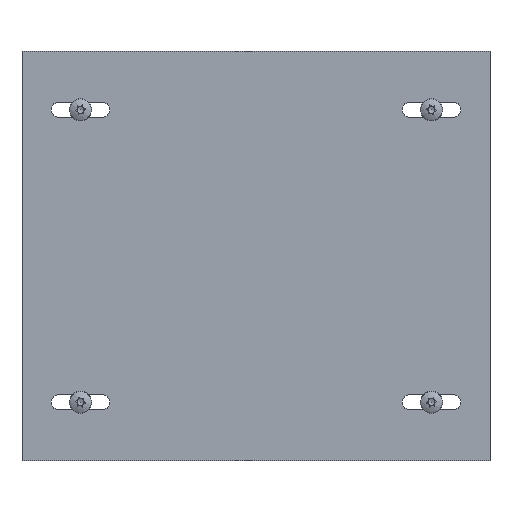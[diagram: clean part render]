
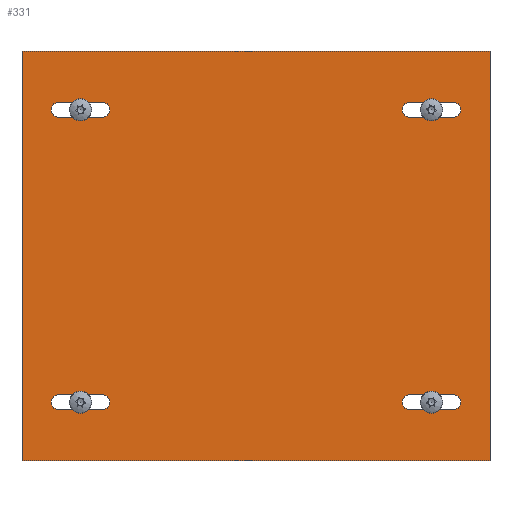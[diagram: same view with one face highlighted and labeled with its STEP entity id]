
A CAD part, top view. The second image highlights one B-rep face of the part: STEP entity #331.
In plain terms, the highlighted planar face has unit normal (0, 0, 1).
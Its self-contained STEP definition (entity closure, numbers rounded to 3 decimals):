
#55 = EDGE_CURVE('',#56,#58,#60,.T.);
#56 = VERTEX_POINT('',#57);
#57 = CARTESIAN_POINT('',(-100.,87.5,0.));
#58 = VERTEX_POINT('',#59);
#59 = CARTESIAN_POINT('',(-100.,-87.5,0.));
#60 = LINE('',#61,#62);
#61 = CARTESIAN_POINT('',(-100.,-87.5,0.));
#62 = VECTOR('',#63,1.);
#63 = DIRECTION('',(-0.,-1.,-0.));
#95 = EDGE_CURVE('',#96,#56,#98,.T.);
#96 = VERTEX_POINT('',#97);
#97 = CARTESIAN_POINT('',(100.,87.5,0.));
#98 = LINE('',#99,#100);
#99 = CARTESIAN_POINT('',(100.,87.5,0.));
#100 = VECTOR('',#101,1.);
#101 = DIRECTION('',(-1.,0.,0.));
#126 = EDGE_CURVE('',#127,#96,#129,.T.);
#127 = VERTEX_POINT('',#128);
#128 = CARTESIAN_POINT('',(100.,-87.5,0.));
#129 = LINE('',#130,#131);
#130 = CARTESIAN_POINT('',(100.,-87.5,0.));
#131 = VECTOR('',#132,1.);
#132 = DIRECTION('',(0.,1.,0.));
#157 = EDGE_CURVE('',#58,#127,#158,.T.);
#158 = LINE('',#159,#160);
#159 = CARTESIAN_POINT('',(100.,-87.5,0.));
#160 = VECTOR('',#161,1.);
#161 = DIRECTION('',(1.,0.,-0.));
#331 = ADVANCED_FACE('',(#332,#368,#404,#440,#476),#482,.T.);
#332 = FACE_BOUND('',#333,.T.);
#333 = EDGE_LOOP('',(#334,#345,#353,#362));
#334 = ORIENTED_EDGE('',*,*,#335,.F.);
#335 = EDGE_CURVE('',#336,#338,#340,.T.);
#336 = VERTEX_POINT('',#337);
#337 = CARTESIAN_POINT('',(-65.75,-65.75,0.));
#338 = VERTEX_POINT('',#339);
#339 = CARTESIAN_POINT('',(-65.75,-59.25,0.));
#340 = CIRCLE('',#341,3.25);
#341 = AXIS2_PLACEMENT_3D('',#342,#343,#344);
#342 = CARTESIAN_POINT('',(-65.75,-62.5,0.));
#343 = DIRECTION('',(0.,0.,1.));
#344 = DIRECTION('',(1.,0.,-0.));
#345 = ORIENTED_EDGE('',*,*,#346,.F.);
#346 = EDGE_CURVE('',#347,#336,#349,.T.);
#347 = VERTEX_POINT('',#348);
#348 = CARTESIAN_POINT('',(-84.25,-65.75,0.));
#349 = LINE('',#350,#351);
#350 = CARTESIAN_POINT('',(-65.75,-65.75,0.));
#351 = VECTOR('',#352,1.);
#352 = DIRECTION('',(1.,-0.,-0.));
#353 = ORIENTED_EDGE('',*,*,#354,.F.);
#354 = EDGE_CURVE('',#355,#347,#357,.T.);
#355 = VERTEX_POINT('',#356);
#356 = CARTESIAN_POINT('',(-84.25,-59.25,0.));
#357 = CIRCLE('',#358,3.25);
#358 = AXIS2_PLACEMENT_3D('',#359,#360,#361);
#359 = CARTESIAN_POINT('',(-84.25,-62.5,0.));
#360 = DIRECTION('',(0.,0.,1.));
#361 = DIRECTION('',(1.,0.,-0.));
#362 = ORIENTED_EDGE('',*,*,#363,.F.);
#363 = EDGE_CURVE('',#338,#355,#364,.T.);
#364 = LINE('',#365,#366);
#365 = CARTESIAN_POINT('',(-65.75,-59.25,0.));
#366 = VECTOR('',#367,1.);
#367 = DIRECTION('',(-1.,0.,0.));
#368 = FACE_BOUND('',#369,.T.);
#369 = EDGE_LOOP('',(#370,#381,#389,#398));
#370 = ORIENTED_EDGE('',*,*,#371,.F.);
#371 = EDGE_CURVE('',#372,#374,#376,.T.);
#372 = VERTEX_POINT('',#373);
#373 = CARTESIAN_POINT('',(-65.75,59.25,0.));
#374 = VERTEX_POINT('',#375);
#375 = CARTESIAN_POINT('',(-65.75,65.75,0.));
#376 = CIRCLE('',#377,3.25);
#377 = AXIS2_PLACEMENT_3D('',#378,#379,#380);
#378 = CARTESIAN_POINT('',(-65.75,62.5,0.));
#379 = DIRECTION('',(0.,0.,1.));
#380 = DIRECTION('',(-1.,0.,0.));
#381 = ORIENTED_EDGE('',*,*,#382,.F.);
#382 = EDGE_CURVE('',#383,#372,#385,.T.);
#383 = VERTEX_POINT('',#384);
#384 = CARTESIAN_POINT('',(-84.25,59.25,0.));
#385 = LINE('',#386,#387);
#386 = CARTESIAN_POINT('',(-65.75,59.25,0.));
#387 = VECTOR('',#388,1.);
#388 = DIRECTION('',(1.,-0.,-0.));
#389 = ORIENTED_EDGE('',*,*,#390,.F.);
#390 = EDGE_CURVE('',#391,#383,#393,.T.);
#391 = VERTEX_POINT('',#392);
#392 = CARTESIAN_POINT('',(-84.25,65.75,0.));
#393 = CIRCLE('',#394,3.25);
#394 = AXIS2_PLACEMENT_3D('',#395,#396,#397);
#395 = CARTESIAN_POINT('',(-84.25,62.5,0.));
#396 = DIRECTION('',(0.,0.,1.));
#397 = DIRECTION('',(-1.,0.,0.));
#398 = ORIENTED_EDGE('',*,*,#399,.F.);
#399 = EDGE_CURVE('',#374,#391,#400,.T.);
#400 = LINE('',#401,#402);
#401 = CARTESIAN_POINT('',(-65.75,65.75,0.));
#402 = VECTOR('',#403,1.);
#403 = DIRECTION('',(-1.,0.,0.));
#404 = FACE_BOUND('',#405,.T.);
#405 = EDGE_LOOP('',(#406,#417,#425,#434));
#406 = ORIENTED_EDGE('',*,*,#407,.F.);
#407 = EDGE_CURVE('',#408,#410,#412,.T.);
#408 = VERTEX_POINT('',#409);
#409 = CARTESIAN_POINT('',(65.75,65.75,0.));
#410 = VERTEX_POINT('',#411);
#411 = CARTESIAN_POINT('',(65.75,59.25,0.));
#412 = CIRCLE('',#413,3.25);
#413 = AXIS2_PLACEMENT_3D('',#414,#415,#416);
#414 = CARTESIAN_POINT('',(65.75,62.5,0.));
#415 = DIRECTION('',(0.,0.,1.));
#416 = DIRECTION('',(1.,0.,-0.));
#417 = ORIENTED_EDGE('',*,*,#418,.F.);
#418 = EDGE_CURVE('',#419,#408,#421,.T.);
#419 = VERTEX_POINT('',#420);
#420 = CARTESIAN_POINT('',(84.25,65.75,0.));
#421 = LINE('',#422,#423);
#422 = CARTESIAN_POINT('',(65.75,65.75,0.));
#423 = VECTOR('',#424,1.);
#424 = DIRECTION('',(-1.,-0.,-0.));
#425 = ORIENTED_EDGE('',*,*,#426,.F.);
#426 = EDGE_CURVE('',#427,#419,#429,.T.);
#427 = VERTEX_POINT('',#428);
#428 = CARTESIAN_POINT('',(84.25,59.25,0.));
#429 = CIRCLE('',#430,3.25);
#430 = AXIS2_PLACEMENT_3D('',#431,#432,#433);
#431 = CARTESIAN_POINT('',(84.25,62.5,0.));
#432 = DIRECTION('',(0.,0.,1.));
#433 = DIRECTION('',(1.,0.,-0.));
#434 = ORIENTED_EDGE('',*,*,#435,.F.);
#435 = EDGE_CURVE('',#410,#427,#436,.T.);
#436 = LINE('',#437,#438);
#437 = CARTESIAN_POINT('',(65.75,59.25,0.));
#438 = VECTOR('',#439,1.);
#439 = DIRECTION('',(1.,0.,0.));
#440 = FACE_BOUND('',#441,.T.);
#441 = EDGE_LOOP('',(#442,#453,#461,#470));
#442 = ORIENTED_EDGE('',*,*,#443,.F.);
#443 = EDGE_CURVE('',#444,#446,#448,.T.);
#444 = VERTEX_POINT('',#445);
#445 = CARTESIAN_POINT('',(65.75,-59.25,0.));
#446 = VERTEX_POINT('',#447);
#447 = CARTESIAN_POINT('',(65.75,-65.75,0.));
#448 = CIRCLE('',#449,3.25);
#449 = AXIS2_PLACEMENT_3D('',#450,#451,#452);
#450 = CARTESIAN_POINT('',(65.75,-62.5,0.));
#451 = DIRECTION('',(0.,0.,1.));
#452 = DIRECTION('',(-1.,0.,0.));
#453 = ORIENTED_EDGE('',*,*,#454,.F.);
#454 = EDGE_CURVE('',#455,#444,#457,.T.);
#455 = VERTEX_POINT('',#456);
#456 = CARTESIAN_POINT('',(84.25,-59.25,0.));
#457 = LINE('',#458,#459);
#458 = CARTESIAN_POINT('',(65.75,-59.25,0.));
#459 = VECTOR('',#460,1.);
#460 = DIRECTION('',(-1.,-0.,-0.));
#461 = ORIENTED_EDGE('',*,*,#462,.F.);
#462 = EDGE_CURVE('',#463,#455,#465,.T.);
#463 = VERTEX_POINT('',#464);
#464 = CARTESIAN_POINT('',(84.25,-65.75,0.));
#465 = CIRCLE('',#466,3.25);
#466 = AXIS2_PLACEMENT_3D('',#467,#468,#469);
#467 = CARTESIAN_POINT('',(84.25,-62.5,0.));
#468 = DIRECTION('',(0.,0.,1.));
#469 = DIRECTION('',(-1.,0.,0.));
#470 = ORIENTED_EDGE('',*,*,#471,.F.);
#471 = EDGE_CURVE('',#446,#463,#472,.T.);
#472 = LINE('',#473,#474);
#473 = CARTESIAN_POINT('',(65.75,-65.75,0.));
#474 = VECTOR('',#475,1.);
#475 = DIRECTION('',(1.,0.,0.));
#476 = FACE_BOUND('',#477,.T.);
#477 = EDGE_LOOP('',(#478,#479,#480,#481));
#478 = ORIENTED_EDGE('',*,*,#55,.T.);
#479 = ORIENTED_EDGE('',*,*,#157,.T.);
#480 = ORIENTED_EDGE('',*,*,#126,.T.);
#481 = ORIENTED_EDGE('',*,*,#95,.T.);
#482 = PLANE('',#483);
#483 = AXIS2_PLACEMENT_3D('',#484,#485,#486);
#484 = CARTESIAN_POINT('',(0.,0.,0.));
#485 = DIRECTION('',(0.,-0.,1.));
#486 = DIRECTION('',(1.,0.,0.));
